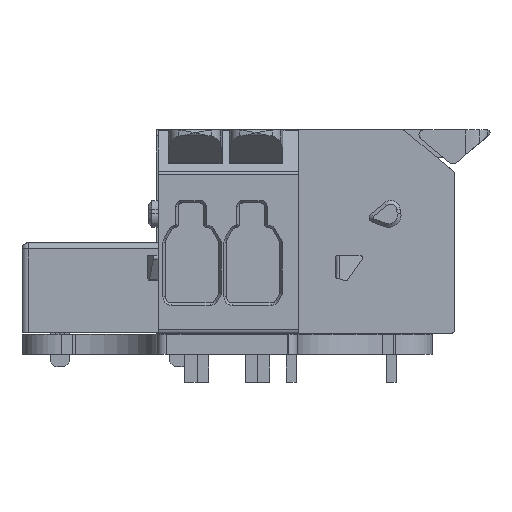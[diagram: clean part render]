
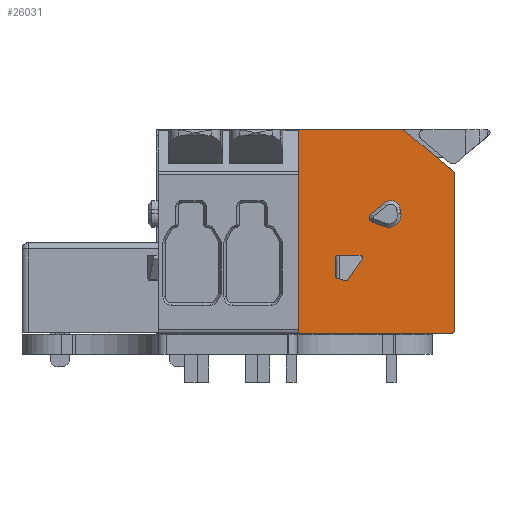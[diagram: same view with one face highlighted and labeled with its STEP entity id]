
A CAD part, left-side view. The second image highlights one B-rep face of the part: STEP entity #26031.
In plain terms, the highlighted planar face has unit normal (-1, 0, 0) as drawn and (0, 0, 1) by its records, which use the part's own axes.
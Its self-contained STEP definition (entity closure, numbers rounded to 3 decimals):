
#23345 = VERTEX_POINT('',#23346);
#23346 = CARTESIAN_POINT('',(5.2,0.3,50.));
#23363 = VERTEX_POINT('',#23364);
#23364 = CARTESIAN_POINT('',(5.2,13.06,50.));
#23370 = EDGE_CURVE('',#23345,#23363,#23371,.T.);
#23371 = LINE('',#23372,#23373);
#23372 = CARTESIAN_POINT('',(5.2,0.3,50.));
#23373 = VECTOR('',#23374,1.);
#23374 = DIRECTION('',(0.,1.,0.));
#25869 = VERTEX_POINT('',#25870);
#25870 = CARTESIAN_POINT('',(-4.452,4.515,50.));
#25876 = EDGE_CURVE('',#25869,#25877,#25879,.T.);
#25877 = VERTEX_POINT('',#25878);
#25878 = CARTESIAN_POINT('',(-3.785,4.336,50.));
#25879 = LINE('',#25880,#25881);
#25880 = CARTESIAN_POINT('',(-4.452,4.515,50.));
#25881 = VECTOR('',#25882,1.);
#25882 = DIRECTION('',(0.966,-0.259,0.));
#25908 = EDGE_CURVE('',#25877,#25909,#25911,.T.);
#25909 = VERTEX_POINT('',#25910);
#25910 = CARTESIAN_POINT('',(-3.57,4.415,50.));
#25911 = CIRCLE('',#25912,0.2);
#25912 = AXIS2_PLACEMENT_3D('',#25913,#25914,#25915);
#25913 = CARTESIAN_POINT('',(-3.734,4.529,50.));
#25914 = DIRECTION('',(0.,0.,1.));
#25915 = DIRECTION('',(1.,0.,-0.));
#25940 = EDGE_CURVE('',#25909,#25941,#25943,.T.);
#25941 = VERTEX_POINT('',#25942);
#25942 = CARTESIAN_POINT('',(-2.4,6.085,50.));
#25943 = LINE('',#25944,#25945);
#25944 = CARTESIAN_POINT('',(-3.57,4.415,50.));
#25945 = VECTOR('',#25946,1.);
#25946 = DIRECTION('',(0.574,0.819,0.));
#25972 = EDGE_CURVE('',#25941,#25973,#25975,.T.);
#25973 = VERTEX_POINT('',#25974);
#25974 = CARTESIAN_POINT('',(-2.564,6.4,50.));
#25975 = CIRCLE('',#25976,0.2);
#25976 = AXIS2_PLACEMENT_3D('',#25977,#25978,#25979);
#25977 = CARTESIAN_POINT('',(-2.564,6.2,50.));
#25978 = DIRECTION('',(0.,0.,1.));
#25979 = DIRECTION('',(1.,0.,-0.));
#26004 = EDGE_CURVE('',#25973,#26005,#26007,.T.);
#26005 = VERTEX_POINT('',#26006);
#26006 = CARTESIAN_POINT('',(-4.4,6.4,50.));
#26007 = LINE('',#26008,#26009);
#26008 = CARTESIAN_POINT('',(-2.564,6.4,50.));
#26009 = VECTOR('',#26010,1.);
#26010 = DIRECTION('',(-1.,0.,0.));
#26031 = ADVANCED_FACE('',(#26032,#26110,#26141),#26194,.T.);
#26032 = FACE_BOUND('',#26033,.T.);
#26033 = EDGE_LOOP('',(#26034,#26044,#26051,#26052,#26061,#26069,#26078,
    #26086,#26095,#26103));
#26034 = ORIENTED_EDGE('',*,*,#26035,.T.);
#26035 = EDGE_CURVE('',#26036,#26038,#26040,.T.);
#26036 = VERTEX_POINT('',#26037);
#26037 = CARTESIAN_POINT('',(-10.8,0.,50.));
#26038 = VERTEX_POINT('',#26039);
#26039 = CARTESIAN_POINT('',(4.9,0.,50.));
#26040 = LINE('',#26041,#26042);
#26041 = CARTESIAN_POINT('',(-10.8,0.,50.));
#26042 = VECTOR('',#26043,1.);
#26043 = DIRECTION('',(1.,0.,0.));
#26044 = ORIENTED_EDGE('',*,*,#26045,.T.);
#26045 = EDGE_CURVE('',#26038,#23345,#26046,.T.);
#26046 = CIRCLE('',#26047,0.3);
#26047 = AXIS2_PLACEMENT_3D('',#26048,#26049,#26050);
#26048 = CARTESIAN_POINT('',(4.9,0.3,50.));
#26049 = DIRECTION('',(0.,0.,1.));
#26050 = DIRECTION('',(1.,0.,-0.));
#26051 = ORIENTED_EDGE('',*,*,#23370,.T.);
#26052 = ORIENTED_EDGE('',*,*,#26053,.T.);
#26053 = EDGE_CURVE('',#23363,#26054,#26056,.T.);
#26054 = VERTEX_POINT('',#26055);
#26055 = CARTESIAN_POINT('',(5.093,13.29,50.));
#26056 = CIRCLE('',#26057,0.3);
#26057 = AXIS2_PLACEMENT_3D('',#26058,#26059,#26060);
#26058 = CARTESIAN_POINT('',(4.9,13.06,50.));
#26059 = DIRECTION('',(0.,0.,1.));
#26060 = DIRECTION('',(1.,0.,-0.));
#26061 = ORIENTED_EDGE('',*,*,#26062,.T.);
#26062 = EDGE_CURVE('',#26054,#26063,#26065,.T.);
#26063 = VERTEX_POINT('',#26064);
#26064 = CARTESIAN_POINT('',(1.113,16.63,50.));
#26065 = LINE('',#26066,#26067);
#26066 = CARTESIAN_POINT('',(5.093,13.29,50.));
#26067 = VECTOR('',#26068,1.);
#26068 = DIRECTION('',(-0.766,0.643,0.));
#26069 = ORIENTED_EDGE('',*,*,#26070,.T.);
#26070 = EDGE_CURVE('',#26063,#26071,#26073,.T.);
#26071 = VERTEX_POINT('',#26072);
#26072 = CARTESIAN_POINT('',(0.92,16.7,50.));
#26073 = CIRCLE('',#26074,0.3);
#26074 = AXIS2_PLACEMENT_3D('',#26075,#26076,#26077);
#26075 = CARTESIAN_POINT('',(0.92,16.4,50.));
#26076 = DIRECTION('',(0.,0.,1.));
#26077 = DIRECTION('',(1.,0.,-0.));
#26078 = ORIENTED_EDGE('',*,*,#26079,.T.);
#26079 = EDGE_CURVE('',#26071,#26080,#26082,.T.);
#26080 = VERTEX_POINT('',#26081);
#26081 = CARTESIAN_POINT('',(-10.6,16.7,50.));
#26082 = LINE('',#26083,#26084);
#26083 = CARTESIAN_POINT('',(0.92,16.7,50.));
#26084 = VECTOR('',#26085,1.);
#26085 = DIRECTION('',(-1.,0.,0.));
#26086 = ORIENTED_EDGE('',*,*,#26087,.T.);
#26087 = EDGE_CURVE('',#26080,#26088,#26090,.T.);
#26088 = VERTEX_POINT('',#26089);
#26089 = CARTESIAN_POINT('',(-11.1,16.2,50.));
#26090 = CIRCLE('',#26091,0.5);
#26091 = AXIS2_PLACEMENT_3D('',#26092,#26093,#26094);
#26092 = CARTESIAN_POINT('',(-10.6,16.2,50.));
#26093 = DIRECTION('',(0.,0.,1.));
#26094 = DIRECTION('',(1.,0.,-0.));
#26095 = ORIENTED_EDGE('',*,*,#26096,.T.);
#26096 = EDGE_CURVE('',#26088,#26097,#26099,.T.);
#26097 = VERTEX_POINT('',#26098);
#26098 = CARTESIAN_POINT('',(-11.1,0.3,50.));
#26099 = LINE('',#26100,#26101);
#26100 = CARTESIAN_POINT('',(-11.1,16.2,50.));
#26101 = VECTOR('',#26102,1.);
#26102 = DIRECTION('',(0.,-1.,0.));
#26103 = ORIENTED_EDGE('',*,*,#26104,.T.);
#26104 = EDGE_CURVE('',#26097,#26036,#26105,.T.);
#26105 = CIRCLE('',#26106,0.3);
#26106 = AXIS2_PLACEMENT_3D('',#26107,#26108,#26109);
#26107 = CARTESIAN_POINT('',(-10.8,0.3,50.));
#26108 = DIRECTION('',(0.,0.,1.));
#26109 = DIRECTION('',(1.,0.,-0.));
#26110 = FACE_BOUND('',#26111,.T.);
#26111 = EDGE_LOOP('',(#26112,#26122,#26129,#26130,#26131,#26132,#26133,
    #26134));
#26112 = ORIENTED_EDGE('',*,*,#26113,.F.);
#26113 = EDGE_CURVE('',#26114,#26116,#26118,.T.);
#26114 = VERTEX_POINT('',#26115);
#26115 = CARTESIAN_POINT('',(-4.6,6.2,50.));
#26116 = VERTEX_POINT('',#26117);
#26117 = CARTESIAN_POINT('',(-4.6,4.708,50.));
#26118 = LINE('',#26119,#26120);
#26119 = CARTESIAN_POINT('',(-4.6,6.2,50.));
#26120 = VECTOR('',#26121,1.);
#26121 = DIRECTION('',(0.,-1.,0.));
#26122 = ORIENTED_EDGE('',*,*,#26123,.F.);
#26123 = EDGE_CURVE('',#26005,#26114,#26124,.T.);
#26124 = CIRCLE('',#26125,0.2);
#26125 = AXIS2_PLACEMENT_3D('',#26126,#26127,#26128);
#26126 = CARTESIAN_POINT('',(-4.4,6.2,50.));
#26127 = DIRECTION('',(0.,0.,1.));
#26128 = DIRECTION('',(1.,0.,-0.));
#26129 = ORIENTED_EDGE('',*,*,#26004,.F.);
#26130 = ORIENTED_EDGE('',*,*,#25972,.F.);
#26131 = ORIENTED_EDGE('',*,*,#25940,.F.);
#26132 = ORIENTED_EDGE('',*,*,#25908,.F.);
#26133 = ORIENTED_EDGE('',*,*,#25876,.F.);
#26134 = ORIENTED_EDGE('',*,*,#26135,.F.);
#26135 = EDGE_CURVE('',#26116,#25869,#26136,.T.);
#26136 = CIRCLE('',#26137,0.2);
#26137 = AXIS2_PLACEMENT_3D('',#26138,#26139,#26140);
#26138 = CARTESIAN_POINT('',(-4.4,4.708,50.));
#26139 = DIRECTION('',(0.,0.,1.));
#26140 = DIRECTION('',(1.,0.,-0.));
#26141 = FACE_BOUND('',#26142,.T.);
#26142 = EDGE_LOOP('',(#26143,#26154,#26162,#26171,#26179,#26188));
#26143 = ORIENTED_EDGE('',*,*,#26144,.F.);
#26144 = EDGE_CURVE('',#26145,#26147,#26149,.T.);
#26145 = VERTEX_POINT('',#26146);
#26146 = CARTESIAN_POINT('',(-1.655,9.808,50.));
#26147 = VERTEX_POINT('',#26148);
#26148 = CARTESIAN_POINT('',(-1.537,9.124,50.));
#26149 = CIRCLE('',#26150,0.4);
#26150 = AXIS2_PLACEMENT_3D('',#26151,#26152,#26153);
#26151 = CARTESIAN_POINT('',(-1.4,9.5,50.));
#26152 = DIRECTION('',(0.,0.,1.));
#26153 = DIRECTION('',(1.,0.,-0.));
#26154 = ORIENTED_EDGE('',*,*,#26155,.F.);
#26155 = EDGE_CURVE('',#26156,#26145,#26158,.T.);
#26156 = VERTEX_POINT('',#26157);
#26157 = CARTESIAN_POINT('',(-0.561,10.716,50.));
#26158 = LINE('',#26159,#26160);
#26159 = CARTESIAN_POINT('',(-0.561,10.716,50.));
#26160 = VECTOR('',#26161,1.);
#26161 = DIRECTION('',(-0.77,-0.638,0.));
#26162 = ORIENTED_EDGE('',*,*,#26163,.F.);
#26163 = EDGE_CURVE('',#26164,#26156,#26166,.T.);
#26164 = VERTEX_POINT('',#26165);
#26165 = CARTESIAN_POINT('',(0.743,10.202,50.));
#26166 = CIRCLE('',#26167,0.8);
#26167 = AXIS2_PLACEMENT_3D('',#26168,#26169,#26170);
#26168 = CARTESIAN_POINT('',(-0.05,10.1,50.));
#26169 = DIRECTION('',(0.,0.,1.));
#26170 = DIRECTION('',(1.,0.,-0.));
#26171 = ORIENTED_EDGE('',*,*,#26172,.F.);
#26172 = EDGE_CURVE('',#26173,#26164,#26175,.T.);
#26173 = VERTEX_POINT('',#26174);
#26174 = CARTESIAN_POINT('',(0.792,9.828,50.));
#26175 = LINE('',#26176,#26177);
#26176 = CARTESIAN_POINT('',(0.792,9.828,50.));
#26177 = VECTOR('',#26178,1.);
#26178 = DIRECTION('',(-0.128,0.992,0.));
#26179 = ORIENTED_EDGE('',*,*,#26180,.F.);
#26180 = EDGE_CURVE('',#26181,#26173,#26183,.T.);
#26181 = VERTEX_POINT('',#26182);
#26182 = CARTESIAN_POINT('',(-0.543,8.761,50.));
#26183 = CIRCLE('',#26184,1.);
#26184 = AXIS2_PLACEMENT_3D('',#26185,#26186,#26187);
#26185 = CARTESIAN_POINT('',(-0.2,9.7,50.));
#26186 = DIRECTION('',(0.,0.,1.));
#26187 = DIRECTION('',(1.,0.,-0.));
#26188 = ORIENTED_EDGE('',*,*,#26189,.F.);
#26189 = EDGE_CURVE('',#26147,#26181,#26190,.T.);
#26190 = LINE('',#26191,#26192);
#26191 = CARTESIAN_POINT('',(-1.537,9.124,50.));
#26192 = VECTOR('',#26193,1.);
#26193 = DIRECTION('',(0.939,-0.343,0.));
#26194 = PLANE('',#26195);
#26195 = AXIS2_PLACEMENT_3D('',#26196,#26197,#26198);
#26196 = CARTESIAN_POINT('',(-10.6,16.2,50.));
#26197 = DIRECTION('',(0.,0.,1.));
#26198 = DIRECTION('',(1.,0.,-0.));
